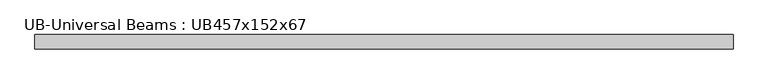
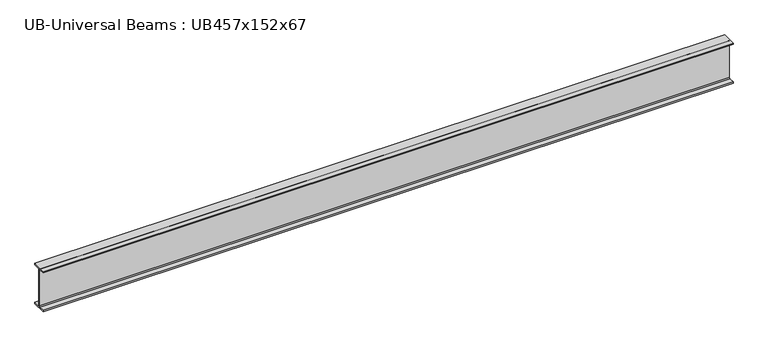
"""IFC4 building model written with IfcOpenShell, lengths in millimetres: beam geometry, UB-Universal Beams : UB457x152x67."""

import ifcopenshell
import ifcopenshell.guid

model = None  # the IFC model being written
_history = None  # IfcOwnerHistory: only IFC2X3 demands one
_inside = {}  # id of a spatial element -> (the spatial element, [elements in it])
_under = {}  # id of a project, library or spatial element -> (it, [spatial elements below it])
_declared = {}  # id of a project -> (the project, [libraries it declares])
_typed = {}  # id of a type object -> (the type object, [elements of that type])
_made_of = {}  # id of a material, layer set ... -> (it, [elements and type objects made of it])


def new_model(schema):
    """Start an empty IFC model of exactly this schema.

    Asked for "IFC4X3", IfcOpenShell would pick the latest addendum, in which some entities
    have other attributes; the version numbers below select the first issue.
    IFC2X3 requires an IfcOwnerHistory on every rooted entity: one is made here for all.
    """
    global model, _history
    if schema == "IFC4X3":
        model = ifcopenshell.file(schema_version=(4, 3, 0, 0))
    else:
        model = ifcopenshell.file(schema=schema)
    _inside.clear()
    _under.clear()
    _declared.clear()
    _typed.clear()
    _made_of.clear()
    _history = None
    if model.schema == "IFC2X3":
        org = make("IfcOrganization", Name="unknown")
        user = make(
            "IfcPersonAndOrganization",
            ThePerson=make("IfcPerson", FamilyName="unknown"),
            TheOrganization=org,
        )
        app = make(
            "IfcApplication",
            ApplicationDeveloper=org,
            Version="unknown",
            ApplicationFullName="unknown",
            ApplicationIdentifier="unknown",
        )
        _history = make(
            "IfcOwnerHistory",
            OwningUser=user,
            OwningApplication=app,
            ChangeAction="ADDED",
            CreationDate=0,
        )
    return model


def make(cls, **values):
    """One entity of the class cls with the attributes given. An attribute that is None is left unset."""
    return model.create_entity(
        cls, **{name: value for name, value in values.items() if value is not None}
    )


def rooted(cls, **values):
    """An entity with a GlobalId (a new one), such as an element, a storey or a relation."""
    return make(cls, GlobalId=ifcopenshell.guid.new(), OwnerHistory=_history, **values)


def si_unit(unit_type, name, prefix=None):
    """IfcSIUnit, for example si_unit("LENGTHUNIT", "METRE", prefix="MILLI")."""
    return make("IfcSIUnit", UnitType=unit_type, Prefix=prefix, Name=name)


def assignment(units):
    """IfcUnitAssignment: the units of a project."""
    return None if units is None else make("IfcUnitAssignment", Units=units)


def point(xyz):
    """IfcCartesianPoint."""
    return None if xyz is None else make("IfcCartesianPoint", Coordinates=xyz)


def direction(xyz):
    """IfcDirection."""
    return None if xyz is None else make("IfcDirection", DirectionRatios=xyz)


def frame(location, z_axis=None, x_axis=None):
    """IfcAxis2Placement3D, a coordinate frame: its origin and axes. An axis left out is left unset."""
    return make(
        "IfcAxis2Placement3D",
        Location=point(location),
        Axis=direction(z_axis),
        RefDirection=direction(x_axis),
    )


def frame_2d(location, x_axis=None):
    """IfcAxis2Placement2D, a coordinate frame in the plane: its origin and x axis."""
    return make(
        "IfcAxis2Placement2D", Location=point(location), RefDirection=direction(x_axis)
    )


def origin():
    """The frame at (0, 0, 0) with its axes left unset."""
    return frame((0.0, 0.0, 0.0))


def place(relative_to, where):
    """IfcLocalPlacement: puts the frame where relative to a parent placement (None: the world)."""
    return make(
        "IfcLocalPlacement", PlacementRelTo=relative_to, RelativePlacement=where
    )


def context(
    kind, dimensions, precision=None, world=None, true_north=None, identifier=None
):
    """IfcGeometricRepresentationContext, for example the 3D "Model" context."""
    return make(
        "IfcGeometricRepresentationContext",
        ContextIdentifier=identifier,
        ContextType=kind,
        CoordinateSpaceDimension=dimensions,
        Precision=precision,
        WorldCoordinateSystem=world,
        TrueNorth=true_north,
    )


def project(units=None, contexts=None):
    """IfcProject with its units and contexts."""
    return rooted(
        "IfcProject",
        Name="project",
        RepresentationContexts=contexts,
        UnitsInContext=assignment(units),
    )


def spatial(cls, under=None, at=None, **own):
    """A site, building, storey or space (cls), placed at a placement, below another one or the project."""
    s = rooted(cls, ObjectPlacement=at, **own)
    if under is not None:
        _under.setdefault(under.id(), (under, []))[1].append(s)
    return s


def polyline(points):
    """IfcPolyline through the points."""
    return make("IfcPolyline", Points=[point(p) for p in points])


def circle_curve(where, radius):
    """IfcCircle in the frame where."""
    return make("IfcCircle", Position=where, Radius=radius)


def trimmed(basis, trim1, trim2, sense, master):
    """IfcTrimmedCurve: the piece of a basis curve between two trims."""
    return make(
        "IfcTrimmedCurve",
        BasisCurve=basis,
        Trim1=trim1,
        Trim2=trim2,
        SenseAgreement=sense,
        MasterRepresentation=master,
    )


def segment(curve, same_sense, transition):
    """IfcCompositeCurveSegment."""
    return make(
        "IfcCompositeCurveSegment",
        Transition=transition,
        SameSense=same_sense,
        ParentCurve=curve,
    )


def composite_curve(segments, self_intersect=None):
    """IfcCompositeCurve: segments joined end to end."""
    return make("IfcCompositeCurve", Segments=segments, SelfIntersect=self_intersect)


def outline(outer, holes=None, kind="AREA"):
    """IfcArbitraryClosedProfileDef: a profile drawn as a closed curve; with holes, ...WithVoids."""
    if holes is None:
        return make("IfcArbitraryClosedProfileDef", ProfileType=kind, OuterCurve=outer)
    return make(
        "IfcArbitraryProfileDefWithVoids",
        ProfileType=kind,
        OuterCurve=outer,
        InnerCurves=holes,
    )


def extrude(swept, where, along, depth):
    """IfcExtrudedAreaSolid: the profile swept, set in the frame where, extruded along a direction by depth."""
    return make(
        "IfcExtrudedAreaSolid",
        SweptArea=swept,
        Position=where,
        ExtrudedDirection=direction(along),
        Depth=depth,
    )


def shape(context_of_items, identifier, shape_type, items):
    """IfcShapeRepresentation: the items that make up one representation, for example the "Body"."""
    return make(
        "IfcShapeRepresentation",
        ContextOfItems=context_of_items,
        RepresentationIdentifier=identifier,
        RepresentationType=shape_type,
        Items=items,
    )


def source(mapping_origin, context_of_items, identifier, shape_type, items):
    """IfcRepresentationMap: a shape defined once, which mapped items show again and again."""
    return make(
        "IfcRepresentationMap",
        MappingOrigin=mapping_origin,
        MappedRepresentation=shape(context_of_items, identifier, shape_type, items),
    )


def transform(
    local_origin,
    x_axis=None,
    y_axis=None,
    z_axis=None,
    scale=None,
    scale2=None,
    scale3=None,
    uniform=True,
):
    """IfcCartesianTransformationOperator3D, or its non-uniform kind. x_axis, y_axis, z_axis: its Axis1, 2, 3."""
    if uniform:
        return make(
            "IfcCartesianTransformationOperator3D",
            Axis1=direction(x_axis),
            Axis2=direction(y_axis),
            LocalOrigin=point(local_origin),
            Scale=scale,
            Axis3=direction(z_axis),
        )
    return make(
        "IfcCartesianTransformationOperator3DnonUniform",
        Axis1=direction(x_axis),
        Axis2=direction(y_axis),
        LocalOrigin=point(local_origin),
        Scale=scale,
        Axis3=direction(z_axis),
        Scale2=scale2,
        Scale3=scale3,
    )


def mapped(mapping_source, mapping_target):
    """IfcMappedItem: shows the shape of a source again, moved by a transform."""
    return make(
        "IfcMappedItem", MappingSource=mapping_source, MappingTarget=mapping_target
    )


def made_of(thing, what):
    """Note that an element or type object is made of a material, layer set ...; save() writes the relation."""
    if what is not None:
        _made_of.setdefault(what.id(), (what, []))[1].append(thing)
    return thing


def element(
    cls,
    number,
    at=None,
    inside=None,
    cuts=None,
    type_object=None,
    material=None,
    context=None,
    identifier="Body",
    shape_type=None,
    held_by="IfcProductDefinitionShape",
    body=None,
    shapes=None,
    **own,
):
    """One element of the class cls, such as IfcWall. Its Tag is "e" and its number.

    at: its placement. inside: the storey or other place that contains it. cuts: it is an
    opening in that element (IfcRelVoidsElement). A single representation is given by context,
    identifier, shape_type and body (its items); several are given by shapes. held_by: the class
    of the entity that holds the representations. save() writes the other relations.
    """
    e = rooted(cls, Tag="e%d" % number, ObjectPlacement=at, **own)
    if body is not None:
        shapes = [shape(context, identifier, shape_type, body)]
    if shapes is not None:
        e.Representation = make(held_by, Representations=shapes)
    if inside is not None:
        _inside.setdefault(inside.id(), (inside, []))[1].append(e)
    if cuts is not None:
        rooted(
            "IfcRelVoidsElement", RelatingBuildingElement=cuts, RelatedOpeningElement=e
        )
    if type_object is not None:
        _typed.setdefault(type_object.id(), (type_object, []))[1].append(e)
    return made_of(e, material)


def aggregate(whole, parts):
    """IfcRelAggregates: a whole, such as a stair, and the parts it consists of."""
    return rooted("IfcRelAggregates", RelatingObject=whole, RelatedObjects=parts)


def save(model, path):
    """Write the relations noted so far, then the file.

    IfcRelAggregates (storeys below a building ...), IfcRelContainedInSpatialStructure (elements
    in a storey), IfcRelDefinesByType, IfcRelAssociatesMaterial and IfcRelDeclares: one each for
    every whole, place, type object, material and project.
    """
    for whole, parts in _under.values():
        aggregate(whole, parts)
    for where, things in _inside.values():
        rooted(
            "IfcRelContainedInSpatialStructure",
            RelatedElements=things,
            RelatingStructure=where,
        )
    for kind, things in _typed.values():
        rooted("IfcRelDefinesByType", RelatedObjects=things, RelatingType=kind)
    for what, things in _made_of.values():
        rooted("IfcRelAssociatesMaterial", RelatedObjects=things, RelatingMaterial=what)
    for by, libraries in _declared.values():
        rooted("IfcRelDeclares", RelatingContext=by, RelatedDefinitions=libraries)
    model.write(path)


def ub_universal_beams_ub457x152x67_30e2d671(model_context):
    return source(origin(), model_context, "Body", "SweptSolid", [
        extrude(outline(composite_curve([segment(polyline([(76.9, -214.0), (76.9, -229.0), (-76.9, -229.0), (-76.9, -214.0), (-14.7, -214.0)]), True, "CONTINUOUS"), segment(trimmed(circle_curve(frame_2d((-14.7, -203.8)), 10.2), [point((-14.7, -214.0))], [point((-4.5, -203.8))], True, "CARTESIAN"), True, "CONTINUOUS"), segment(polyline([(-4.5, -203.8), (-4.5, 203.8)]), True, "CONTINUOUS"), segment(trimmed(circle_curve(frame_2d((-14.7, 203.8)), 10.2), [point((-4.5, 203.8))], [point((-14.7, 214.0))], True, "CARTESIAN"), True, "CONTINUOUS"), segment(polyline([(-14.7, 214.0), (-76.9, 214.0), (-76.9, 229.0), (76.9, 229.0), (76.9, 214.0), (14.7, 214.0)]), True, "CONTINUOUS"), segment(trimmed(circle_curve(frame_2d((14.7, 203.8)), 10.2), [point((14.7, 214.0))], [point((4.5, 203.8))], True, "CARTESIAN"), True, "CONTINUOUS"), segment(polyline([(4.5, 203.8), (4.5, -203.8)]), True, "CONTINUOUS"), segment(trimmed(circle_curve(frame_2d((14.7, -203.8)), 10.2), [point((4.5, -203.8))], [point((14.7, -214.0))], True, "CARTESIAN"), True, "CONTINUOUS"), segment(polyline([(14.7, -214.0), (76.9, -214.0)]), True, "CONTINUOUS")], self_intersect=False)), frame((-3703.4, 0.0, 0.0), z_axis=(1.0, 0.0, 0.0), x_axis=(0.0, 1.0, 0.0)), (0.0, 0.0, 1.0), 7437.5),
    ])


if __name__ == "__main__":
    model = new_model("IFC4")
    model_context = context("Model", 3, world=origin())
    ifc_project = project(units=[si_unit("LENGTHUNIT", "METRE", prefix="MILLI")], contexts=[model_context])
    site = spatial("IfcSite", under=ifc_project)
    building = spatial("IfcBuilding", under=site)
    placement = place(None, origin())
    ub_universal_beams_ub457x152x67_shape = ub_universal_beams_ub457x152x67_30e2d671(model_context)
    element("IfcBeam", 1, ObjectType="UB-Universal Beams : UB457x152x67", at=placement, inside=building, context=model_context, shape_type="MappedRepresentation", body=[
        mapped(ub_universal_beams_ub457x152x67_shape, transform((0.0, 0.0, 0.0), x_axis=(1.0, 0.0, 0.0), y_axis=(0.0, 1.0, 0.0), z_axis=(0.0, 0.0, 1.0))),
    ])
    save(model, "model.ifc")
